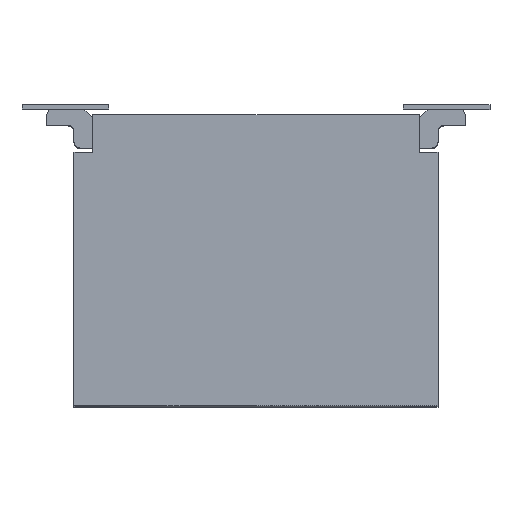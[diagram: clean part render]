
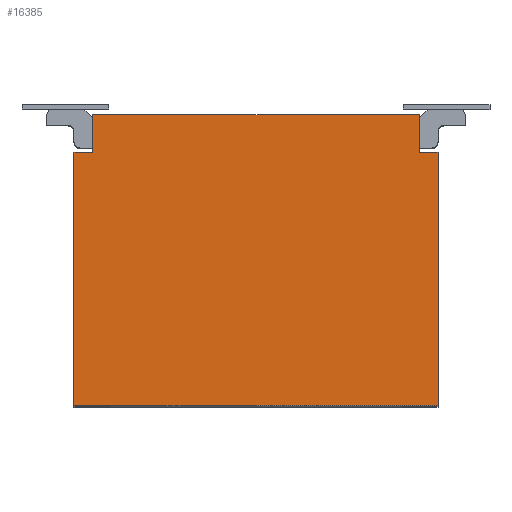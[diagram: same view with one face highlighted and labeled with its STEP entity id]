
A CAD part, top view. The second image highlights one B-rep face of the part: STEP entity #16385.
In plain terms, the highlighted planar face has unit normal (0, 0, 1).
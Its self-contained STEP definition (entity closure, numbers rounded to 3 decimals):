
#477 = CARTESIAN_POINT ( 'NONE',  ( -1.32, 0., 1.415 ) ) ;
#1660 = EDGE_CURVE ( 'NONE', #9874, #6002, #11846, .T. ) ;
#1940 = VERTEX_POINT ( 'NONE', #7589 ) ;
#2097 = EDGE_CURVE ( 'NONE', #9645, #1940, #13424, .T. ) ;
#2481 = EDGE_CURVE ( 'NONE', #14649, #4083, #9094, .T. ) ;
#2603 = CARTESIAN_POINT ( 'NONE',  ( 0.67, -0.438, 1.415 ) ) ;
#2790 = PLANE ( 'NONE',  #10303 ) ;
#2791 = EDGE_CURVE ( 'NONE', #4083, #6351, #8359, .T. ) ;
#3437 = CARTESIAN_POINT ( 'NONE',  ( -1.47, 0.15, 1.415 ) ) ;
#4083 = VERTEX_POINT ( 'NONE', #16611 ) ;
#4635 = DIRECTION ( 'NONE',  ( -1., 0., 0. ) ) ;
#5041 = DIRECTION ( 'NONE',  ( 0., 1., 0. ) ) ;
#5317 = CARTESIAN_POINT ( 'NONE',  ( 1.47, 0.1, 1.415 ) ) ;
#5450 = DIRECTION ( 'NONE',  ( -1., 0., 0. ) ) ;
#5565 = FACE_OUTER_BOUND ( 'NONE', #7370, .T. ) ;
#5871 = CARTESIAN_POINT ( 'NONE',  ( -1.32, 0.45, 1.415 ) ) ;
#6002 = VERTEX_POINT ( 'NONE', #3437 ) ;
#6031 = ORIENTED_EDGE ( 'NONE', *, *, #14562, .F. ) ;
#6293 = LINE ( 'NONE', #477, #7372 ) ;
#6351 = VERTEX_POINT ( 'NONE', #9598 ) ;
#6664 = CARTESIAN_POINT ( 'NONE',  ( 1.47, 0.15, 1.415 ) ) ;
#7230 = CARTESIAN_POINT ( 'NONE',  ( 1.32, 0., 1.415 ) ) ;
#7293 = VECTOR ( 'NONE', #13938, 1000. ) ;
#7297 = DIRECTION ( 'NONE',  ( 0., 1., 0. ) ) ;
#7370 = EDGE_LOOP ( 'NONE', ( #6031, #12257, #8067, #12391, #14242, #9333, #9620, #8231 ) ) ;
#7372 = VECTOR ( 'NONE', #7297, 1000. ) ;
#7408 = CARTESIAN_POINT ( 'NONE',  ( 0., 0.15, 1.415 ) ) ;
#7437 = CARTESIAN_POINT ( 'NONE',  ( 0., 0.45, 1.415 ) ) ;
#7560 = CARTESIAN_POINT ( 'NONE',  ( -1.32, 0.15, 1.415 ) ) ;
#7589 = CARTESIAN_POINT ( 'NONE',  ( -1.47, -1.9, 1.415 ) ) ;
#7784 = VECTOR ( 'NONE', #4635, 1000. ) ;
#8040 = VECTOR ( 'NONE', #11204, 1000. ) ;
#8067 = ORIENTED_EDGE ( 'NONE', *, *, #8739, .T. ) ;
#8231 = ORIENTED_EDGE ( 'NONE', *, *, #1660, .T. ) ;
#8359 = LINE ( 'NONE', #7230, #8040 ) ;
#8739 = EDGE_CURVE ( 'NONE', #9645, #13136, #16497, .T. ) ;
#9094 = LINE ( 'NONE', #7437, #10966 ) ;
#9333 = ORIENTED_EDGE ( 'NONE', *, *, #2481, .F. ) ;
#9455 = EDGE_CURVE ( 'NONE', #9874, #14649, #6293, .T. ) ;
#9598 = CARTESIAN_POINT ( 'NONE',  ( 1.32, 0.15, 1.415 ) ) ;
#9620 = ORIENTED_EDGE ( 'NONE', *, *, #9455, .F. ) ;
#9645 = VERTEX_POINT ( 'NONE', #12652 ) ;
#9723 = DIRECTION ( 'NONE',  ( 0., -1., 0. ) ) ;
#9874 = VERTEX_POINT ( 'NONE', #7560 ) ;
#10055 = VECTOR ( 'NONE', #5450, 1000. ) ;
#10120 = LINE ( 'NONE', #14477, #13205 ) ;
#10303 = AXIS2_PLACEMENT_3D ( 'NONE', #2603, #12776, #9723 ) ;
#10966 = VECTOR ( 'NONE', #13082, 1000. ) ;
#11204 = DIRECTION ( 'NONE',  ( 0., -1., 0. ) ) ;
#11846 = LINE ( 'NONE', #7408, #7784 ) ;
#12257 = ORIENTED_EDGE ( 'NONE', *, *, #2097, .F. ) ;
#12391 = ORIENTED_EDGE ( 'NONE', *, *, #14657, .T. ) ;
#12471 = CARTESIAN_POINT ( 'NONE',  ( 0., -1.9, 1.415 ) ) ;
#12652 = CARTESIAN_POINT ( 'NONE',  ( 1.47, -1.9, 1.415 ) ) ;
#12776 = DIRECTION ( 'NONE',  ( 0., 0., -1. ) ) ;
#12813 = CARTESIAN_POINT ( 'NONE',  ( -1.47, 0.1, 1.415 ) ) ;
#13082 = DIRECTION ( 'NONE',  ( 1., 0., 0. ) ) ;
#13136 = VERTEX_POINT ( 'NONE', #6664 ) ;
#13205 = VECTOR ( 'NONE', #17246, 1000. ) ;
#13424 = LINE ( 'NONE', #12471, #10055 ) ;
#13857 = VECTOR ( 'NONE', #5041, 1000. ) ;
#13938 = DIRECTION ( 'NONE',  ( 0., 1., 0. ) ) ;
#14242 = ORIENTED_EDGE ( 'NONE', *, *, #2791, .F. ) ;
#14477 = CARTESIAN_POINT ( 'NONE',  ( 0., 0.15, 1.415 ) ) ;
#14562 = EDGE_CURVE ( 'NONE', #1940, #6002, #15315, .T. ) ;
#14649 = VERTEX_POINT ( 'NONE', #5871 ) ;
#14657 = EDGE_CURVE ( 'NONE', #13136, #6351, #10120, .T. ) ;
#15315 = LINE ( 'NONE', #12813, #7293 ) ;
#16385 = ADVANCED_FACE ( 'NONE', ( #5565 ), #2790, .F. ) ;
#16497 = LINE ( 'NONE', #5317, #13857 ) ;
#16611 = CARTESIAN_POINT ( 'NONE',  ( 1.32, 0.45, 1.415 ) ) ;
#17246 = DIRECTION ( 'NONE',  ( -1., 0., 0. ) ) ;
